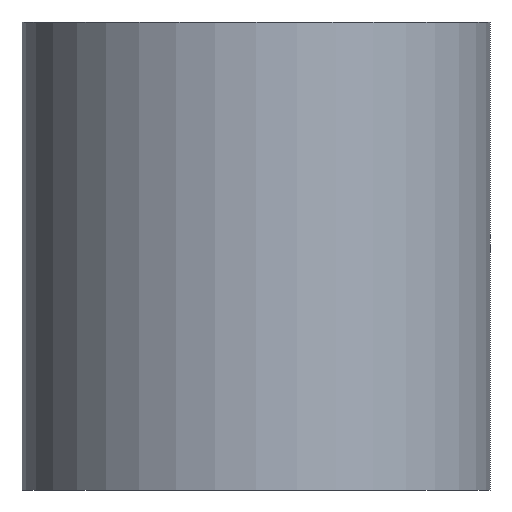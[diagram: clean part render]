
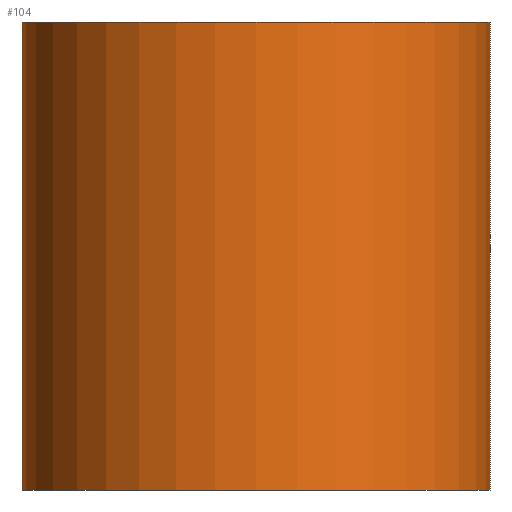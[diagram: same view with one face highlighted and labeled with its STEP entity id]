
A CAD part, left-side view. The second image highlights one B-rep face of the part: STEP entity #104.
In plain terms, the highlighted cylindrical face has radius 10 mm (diameter 20 mm), a partial arc.
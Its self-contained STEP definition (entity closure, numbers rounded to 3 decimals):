
#104=ADVANCED_FACE('',(#114),#110,.T.);
#110=CYLINDRICAL_SURFACE('',#191,10.);
#114=FACE_OUTER_BOUND('',#118,.T.);
#118=EDGE_LOOP('',(#137,#138,#139,#140));
#127=CIRCLE('',#189,10.);
#128=CIRCLE('',#190,10.);
#137=ORIENTED_EDGE('',*,*,#165,.F.);
#138=ORIENTED_EDGE('',*,*,#169,.T.);
#139=ORIENTED_EDGE('',*,*,#167,.T.);
#140=ORIENTED_EDGE('',*,*,#170,.F.);
#157=VERTEX_POINT('',#236);
#158=VERTEX_POINT('',#237);
#159=VERTEX_POINT('',#239);
#160=VERTEX_POINT('',#241);
#165=EDGE_CURVE('',#157,#158,#177,.T.);
#167=EDGE_CURVE('',#160,#159,#178,.T.);
#169=EDGE_CURVE('',#157,#160,#127,.T.);
#170=EDGE_CURVE('',#158,#159,#128,.T.);
#177=LINE('',#235,#181);
#178=LINE('',#240,#182);
#181=VECTOR('',#202,1.);
#182=VECTOR('',#205,1.);
#189=AXIS2_PLACEMENT_3D('',#244,#210,#211);
#190=AXIS2_PLACEMENT_3D('',#245,#212,#213);
#191=AXIS2_PLACEMENT_3D('',#246,#214,#215);
#202=DIRECTION('',(0.,0.,1.));
#205=DIRECTION('',(0.,0.,1.));
#210=DIRECTION('',(0.,0.,1.));
#211=DIRECTION('',(1.,0.,0.));
#212=DIRECTION('',(0.,0.,1.));
#213=DIRECTION('',(1.,0.,0.));
#214=DIRECTION('',(0.,0.,1.));
#215=DIRECTION('',(-1.,0.,0.));
#235=CARTESIAN_POINT('',(0.,10.,0.));
#236=CARTESIAN_POINT('',(0.,10.,-20.));
#237=CARTESIAN_POINT('',(0.,10.,0.));
#239=CARTESIAN_POINT('',(0.,-10.,0.));
#240=CARTESIAN_POINT('',(0.,-10.,0.));
#241=CARTESIAN_POINT('',(0.,-10.,-20.));
#244=CARTESIAN_POINT('',(0.,0.,-20.));
#245=CARTESIAN_POINT('',(0.,0.,0.));
#246=CARTESIAN_POINT('',(0.,0.,-20.));
